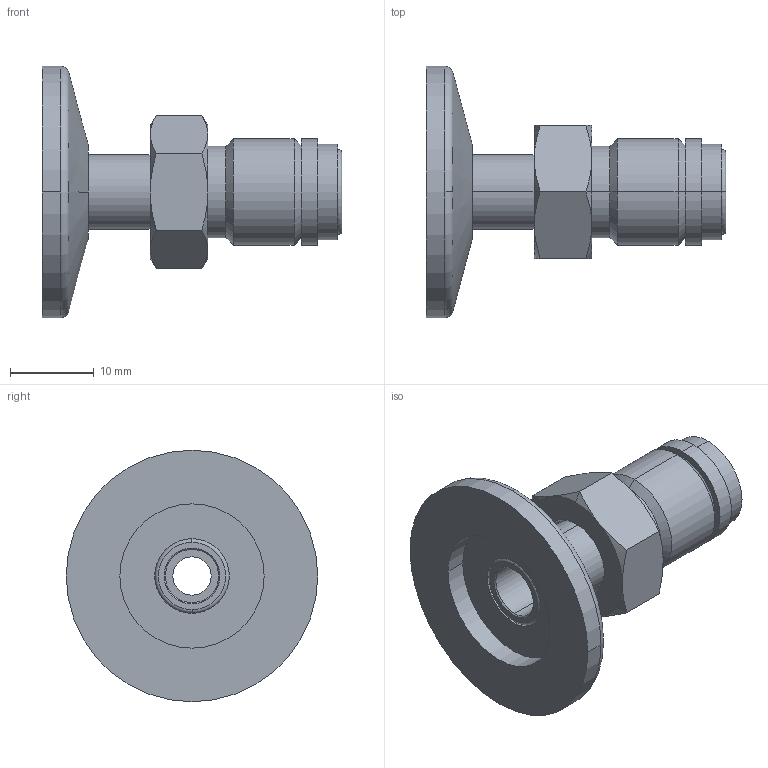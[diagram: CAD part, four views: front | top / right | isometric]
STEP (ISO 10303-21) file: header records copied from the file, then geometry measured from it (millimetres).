
FILE_DESCRIPTION((''),'2;1');
FILE_NAME('W:\211-362.stp','2003-10-31T15:25:31',('KAA'),(''),'Autodesk Inventor (R) 6.0','Autodesk Inventor (R) 6.0','');
FILE_SCHEMA(('CONFIG_CONTROL_DESIGN'));
Length unit declared in the file: millimetre
Products named in the file (1): 211-362
Bounding box: 35.77 x 30 x 30 mm (x, y, z)
Volume: 5488.9 mm3; surface area: 5071.2 mm2
Topology: 2 solids, 2 shells, 76 faces, 160 edges, 96 vertices
Faces by surface type: cone 30, cylinder 22, plane 18, torus 6
Entity records: 2115 total; most frequent: CARTESIAN_POINT 381, DIRECTION 380, ORIENTED_EDGE 320, AXIS2_PLACEMENT_3D 167, EDGE_CURVE 160, VERTEX_POINT 96, CIRCLE 90, EDGE_LOOP 88
